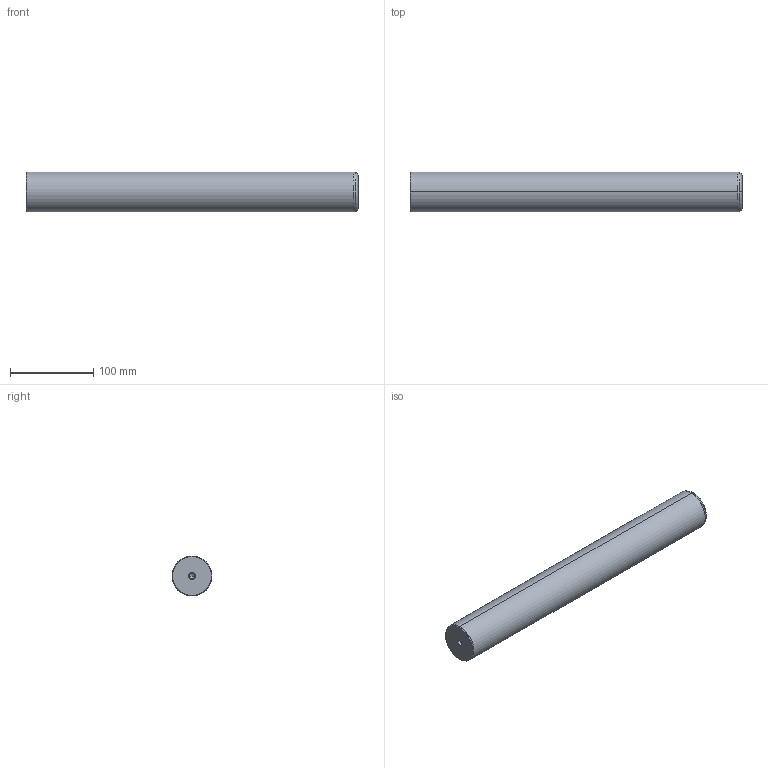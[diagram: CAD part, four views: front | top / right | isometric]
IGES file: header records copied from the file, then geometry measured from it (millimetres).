
Start section: START RECORD GO HERE.
Global section: file name: 720-48x400.igs; native system: DASSAULT SYSTEMES CATIA V5 R20 - www.3ds.com; preprocessor: CATIA Version 5 Release 20 ; author: Utente; organization: NB04-ASUS; date: 20201230.224734; units: millimetre
Bounding box: 400 x 48 x 48 mm (x, y, z)
Surface area: 64546 mm2 (no closed solid volume)
Topology: 0 solids, 0 shells, 22 faces, 120 edges, 116 vertices
Faces by surface type: revolution 20, plane 2
